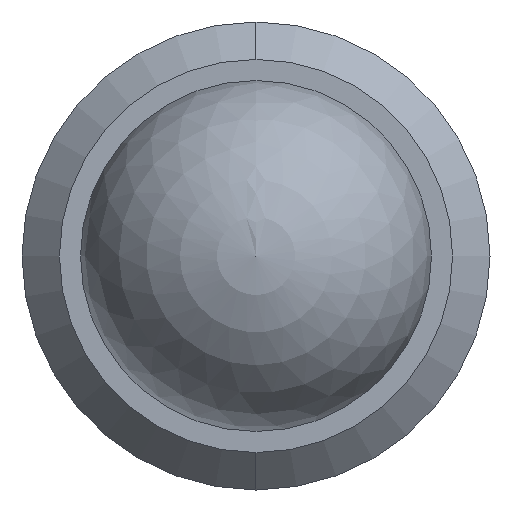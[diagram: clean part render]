
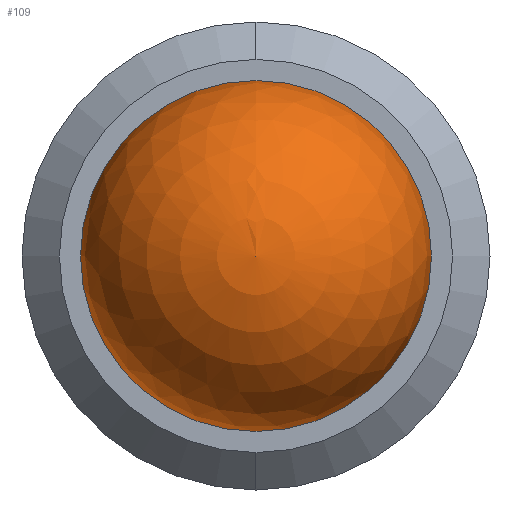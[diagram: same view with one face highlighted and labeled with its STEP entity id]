
A CAD part, left-side view. The second image highlights one B-rep face of the part: STEP entity #109.
In plain terms, the highlighted spherical face has radius 2.381 mm.
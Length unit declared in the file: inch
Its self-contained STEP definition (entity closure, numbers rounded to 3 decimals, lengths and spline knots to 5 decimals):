
#22 = CARTESIAN_POINT ( 'NONE',  ( 0., 0.09375, 0. ) ) ;
#26 = ORIENTED_EDGE ( 'NONE', *, *, #444, .T. ) ;
#49 = DIRECTION ( 'NONE',  ( 0., 0., -1. ) ) ;
#71 = VERTEX_POINT ( 'NONE', #164 ) ;
#109 = ADVANCED_FACE ( 'NONE', ( #451 ), #475, .T. ) ;
#130 = CARTESIAN_POINT ( 'NONE',  ( 0., 0., 0. ) ) ;
#164 = CARTESIAN_POINT ( 'NONE',  ( 0., -0.09375, 0. ) ) ;
#171 = DIRECTION ( 'NONE',  ( 0., 0., 1. ) ) ;
#172 = DIRECTION ( 'NONE',  ( 0., 0., 1. ) ) ;
#176 = VERTEX_POINT ( 'NONE', #22 ) ;
#194 = AXIS2_PLACEMENT_3D ( 'NONE', #130, #470, #172 ) ;
#256 = DIRECTION ( 'NONE',  ( -1., 0., 0. ) ) ;
#336 = DIRECTION ( 'NONE',  ( 1., 0., 0. ) ) ;
#444 = EDGE_CURVE ( 'NONE', #176, #71, #543, .T. ) ;
#451 = FACE_OUTER_BOUND ( 'NONE', #577, .T. ) ;
#470 = DIRECTION ( 'NONE',  ( -1., 0., 0. ) ) ;
#475 = SPHERICAL_SURFACE ( 'NONE', #490, 0.09375 ) ;
#490 = AXIS2_PLACEMENT_3D ( 'NONE', #609, #256, #171 ) ;
#543 = CIRCLE ( 'NONE', #194, 0.09375 ) ;
#551 = CIRCLE ( 'NONE', #594, 0.09375 ) ;
#562 = ORIENTED_EDGE ( 'NONE', *, *, #573, .F. ) ;
#573 = EDGE_CURVE ( 'NONE', #176, #71, #551, .T. ) ;
#577 = EDGE_LOOP ( 'NONE', ( #562, #26 ) ) ;
#594 = AXIS2_PLACEMENT_3D ( 'NONE', #624, #336, #49 ) ;
#609 = CARTESIAN_POINT ( 'NONE',  ( 0., 0., 0. ) ) ;
#624 = CARTESIAN_POINT ( 'NONE',  ( 0., 0., 0. ) ) ;
